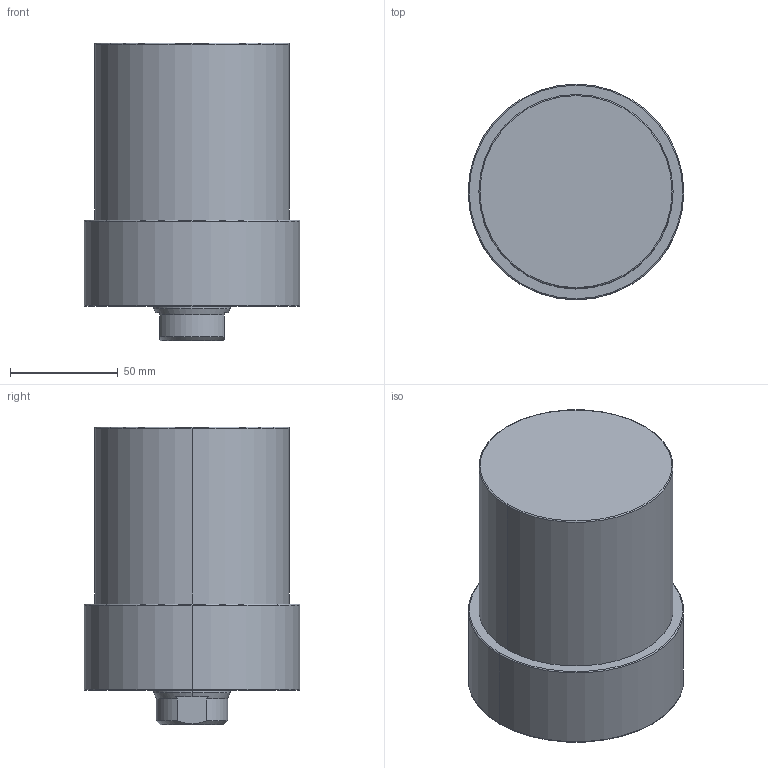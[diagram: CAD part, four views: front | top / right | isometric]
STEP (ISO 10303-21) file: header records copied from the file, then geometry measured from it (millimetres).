
FILE_DESCRIPTION (( 'STEP AP203' ), '1' );
FILE_NAME ('CLLU-090CA-060.STEP', '2020-01-11T00:38:30', ( '' ), ( '' ), 'SwSTEP 2.0', 'SolidWorks 2015', '' );
FILE_SCHEMA (( 'CONFIG_CONTROL_DESIGN' ));
Length unit declared in the file: millimetre
Products named in the file (1): CLLU-090CA-060
Bounding box: 100 x 100 x 138 mm (x, y, z)
Volume: 831370.3 mm3; surface area: 58034.4 mm2
Topology: 1 solids, 1 shells, 62 faces, 140 edges, 79 vertices
Faces by surface type: cone 24, cylinder 22, plane 10, torus 6
Entity records: 1767 total; most frequent: DIRECTION 320, CARTESIAN_POINT 316, ORIENTED_EDGE 260, AXIS2_PLACEMENT_3D 135, EDGE_CURVE 130, VERTEX_POINT 79, CIRCLE 72, EDGE_LOOP 71
